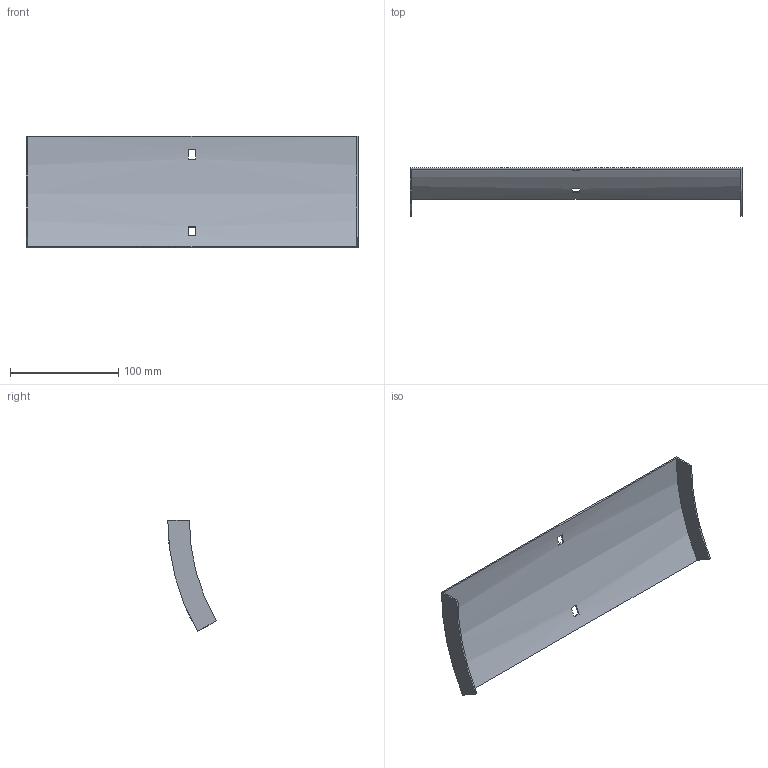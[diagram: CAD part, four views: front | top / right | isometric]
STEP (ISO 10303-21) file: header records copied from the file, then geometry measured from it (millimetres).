
FILE_DESCRIPTION (( 'STEP AP214' ), '1' );
FILE_NAME ('35N1D300.step', '2025-02-21T09:11:03', ( '' ), ( '' ), 'SwSTEP 2.0', 'SolidWorks 2023', '' );
FILE_SCHEMA (( 'AUTOMOTIVE_DESIGN' ));
Length unit declared in the file: millimetre
Products named in the file (1): 35N1D300
Bounding box: 307 x 44.85 x 102.75 mm (x, y, z)
Volume: 54852 mm3; surface area: 74553.9 mm2
Topology: 1 solids, 1 shells, 18 faces, 48 edges, 32 vertices
Faces by surface type: plane 14, cylinder 4
Entity records: 599 total; most frequent: DIRECTION 102, CARTESIAN_POINT 99, ORIENTED_EDGE 96, EDGE_CURVE 48, AXIS2_PLACEMENT_3D 35, VECTOR 32, LINE 32, VERTEX_POINT 32
